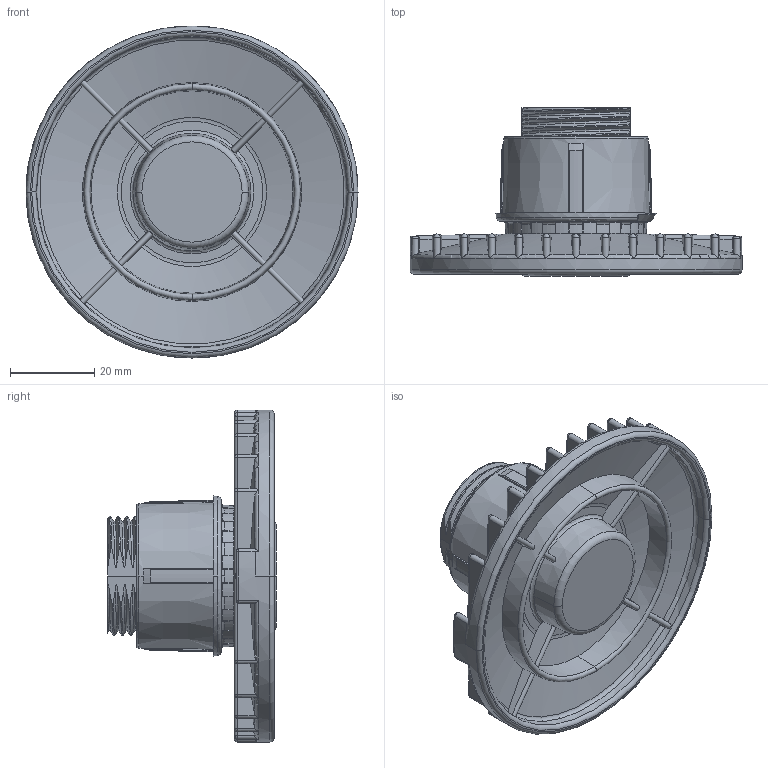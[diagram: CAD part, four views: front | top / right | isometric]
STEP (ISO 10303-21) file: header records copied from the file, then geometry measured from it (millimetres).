
FILE_DESCRIPTION((''),'2;1');
FILE_NAME('69_4045_ASM','2014-10-29T',('hha'),(''),'PRO/ENGINEER BY PARAMETRIC TECHNOLOGY CORPORATION, 2012360','PRO/ENGINEER BY PARAMETRIC TECHNOLOGY CORPORATION, 2012360','');
FILE_SCHEMA(('CONFIG_CONTROL_DESIGN'));
Length unit declared in the file: millimetre
Products named in the file (3): 69_6105; 69_0101_40; 69_4045_ASM
Assembly tree (2 placements, depth 2):
  69_4045_ASM
    69_6105
    69_0101_40
Bounding box: 78.8 x 40 x 78.8 mm (x, y, z)
Volume: 29446 mm3; surface area: 30486.3 mm2
Topology: 2 solids, 2 shells, 692 faces, 1844 edges, 1162 vertices
Faces by surface type: cylinder 176, plane 174, bspline 136, torus 93, cone 91, sphere 22
Entity records: 57127 total; most frequent: CARTESIAN_POINT 42012, ORIENTED_EDGE 3688, DIRECTION 2332, EDGE_CURVE 1844, VERTEX_POINT 1162, B_SPLINE_CURVE_WITH_KNOTS 1002, AXIS2_PLACEMENT_3D 929, EDGE_LOOP 700
